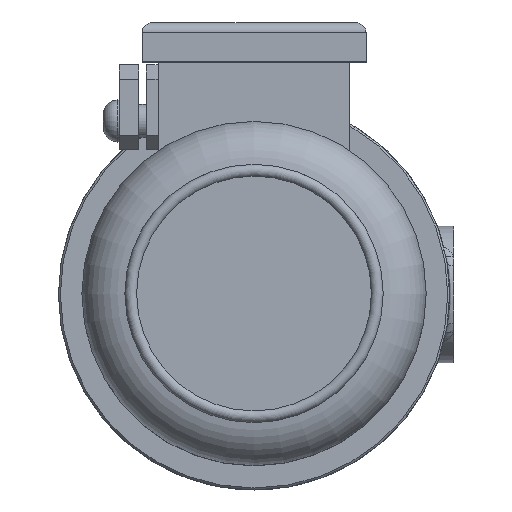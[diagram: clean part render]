
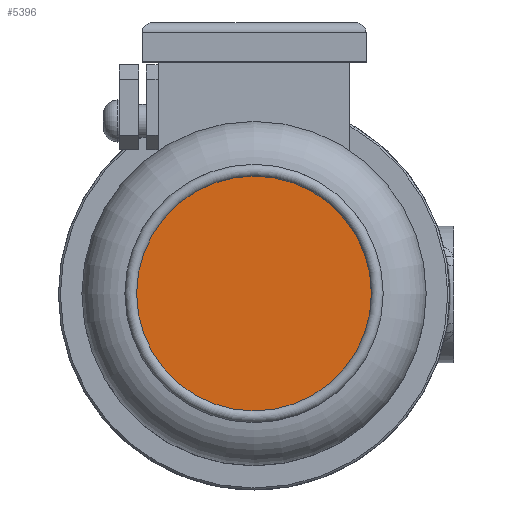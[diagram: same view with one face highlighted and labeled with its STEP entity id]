
A CAD part, top view. The second image highlights one B-rep face of the part: STEP entity #5396.
In plain terms, the highlighted planar face has unit normal (0, 0, 1).
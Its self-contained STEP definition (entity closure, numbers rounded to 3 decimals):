
#368=CIRCLE('',#5875,60.);
#1102=ORIENTED_EDGE('',*,*,#2639,.F.);
#2639=EDGE_CURVE('',#3413,#3413,#368,.T.);
#3413=VERTEX_POINT('',#9262);
#4484=EDGE_LOOP('',(#1102));
#4908=FACE_BOUND('',#4484,.T.);
#5215=PLANE('',#5876);
#5396=ADVANCED_FACE('',(#4908),#5215,.T.);
#5875=AXIS2_PLACEMENT_3D('',#9261,#6677,#6678);
#5876=AXIS2_PLACEMENT_3D('',#9263,#6679,#6680);
#6677=DIRECTION('',(0.,0.,-1.));
#6678=DIRECTION('',(-1.,0.,0.));
#6679=DIRECTION('',(0.,0.,1.));
#6680=DIRECTION('',(1.,0.,0.));
#9261=CARTESIAN_POINT('',(0.,0.,572.584));
#9262=CARTESIAN_POINT('',(-60.,0.,572.584));
#9263=CARTESIAN_POINT('',(-60.,0.,572.584));
